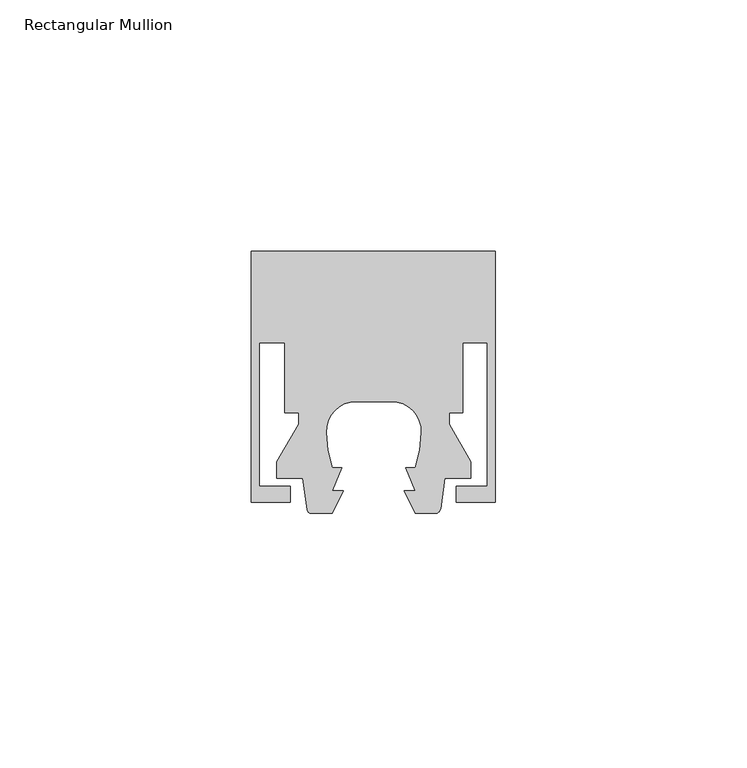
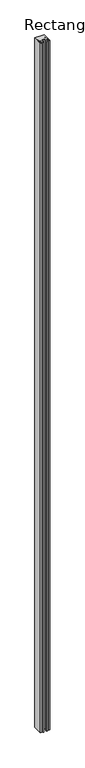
"""IFC4 building model written with IfcOpenShell, lengths in millimetres: member geometry, Rectangular Mullion : Danpal_Airpt."""

from ifc_helpers import new_model, si_unit, point, frame, frame_2d, origin, place, context, project, spatial, polyline, circle_curve, trimmed, segment, composite_curve, outline, extrude, source, transform, mapped, element, save


def rectangular_mullion_fb487b12(model_context):
    return source(origin(), model_context, "Body", "SweptSolid", [
        extrude(outline(composite_curve([segment(polyline([(-16.6, 16.4), (-24.4, 16.4), (-24.4, 66.4), (24.2, 66.4), (24.2, 16.4), (16.4, 16.4), (16.4, 19.6), (22.6, 19.6), (22.6, 48.2), (17.7185077, 48.2), (17.7185077, 34.2), (14.9766663, 34.2), (14.9766663, 31.9202845), (19.2732051, 24.478461), (19.3, 21.2), (14.115585, 21.2)]), True, "CONTINUOUS"), segment(trimmed(circle_curve(frame_2d((-137.1078499, 38.5534788)), 152.215868), [point((14.115585, 21.2))], [point((13.2922905, 15.1127399))], False, "CARTESIAN"), True, "CONTINUOUS"), segment(trimmed(circle_curve(frame_2d((12.2262756, 15.2788845)), 1.0788845), [point((13.2922905, 15.1127399))], [point((12.2262756, 14.2))], False, "CARTESIAN"), True, "CONTINUOUS"), segment(polyline([(12.2262756, 14.2), (8.2308667, 14.2), (6.0782659, 18.7006239), (8.2858815, 18.7006239), (6.3614697, 23.2699289), (8.2778534, 23.2699289)]), True, "CONTINUOUS"), segment(trimmed(circle_curve(frame_2d((-16.4332098, 31.142799)), 25.9348941), [point((8.2778534, 23.2699289))], [point((9.488241, 30.3078647))], True, "CARTESIAN"), True, "CONTINUOUS"), segment(trimmed(circle_curve(frame_2d((3.5093751, 30.500445)), 5.9819667), [point((9.488241, 30.3078647))], [point((3.5093751, 36.4824117))], True, "CARTESIAN"), True, "CONTINUOUS"), segment(polyline([(3.5093751, 36.4824117), (-3.5093751, 36.4824117)]), True, "CONTINUOUS"), segment(trimmed(circle_curve(frame_2d((-3.5093751, 30.500445)), 5.9819667), [point((-3.5093751, 36.4824117))], [point((-9.488241, 30.3078647))], True, "CARTESIAN"), True, "CONTINUOUS"), segment(trimmed(circle_curve(frame_2d((16.4332098, 31.142799)), 25.9348941), [point((-9.488241, 30.3078647))], [point((-8.2778534, 23.2699289))], True, "CARTESIAN"), True, "CONTINUOUS"), segment(polyline([(-8.2778534, 23.2699289), (-6.3614697, 23.2699289), (-8.2858815, 18.7006239), (-6.0782659, 18.7006239), (-8.2308667, 14.2), (-12.3738214, 14.2)]), True, "CONTINUOUS"), segment(trimmed(circle_curve(frame_2d((-12.3738214, 15.1064765)), 0.9064765), [point((-12.3738214, 14.2))], [point((-13.2693482, 14.9660083))], False, "CARTESIAN"), True, "CONTINUOUS"), segment(trimmed(circle_curve(frame_2d((137.1078499, 38.5534788)), 152.215868), [point((-13.2693482, 14.9660083))], [point((-14.115585, 21.2))], False, "CARTESIAN"), True, "CONTINUOUS"), segment(polyline([(-14.115585, 21.2), (-19.3, 21.2), (-19.2732051, 24.478461), (-14.9766663, 31.9202845), (-14.9766663, 34.2), (-17.7185077, 34.2), (-17.7185077, 48.2), (-22.8, 48.2), (-22.8, 19.6), (-16.6, 19.6), (-16.6, 16.4)]), True, "CONTINUOUS")], self_intersect=False)), frame((0.0, 0.0, -3817.3608197), z_axis=(0.0, 0.0, 1.0), x_axis=(1.0, 0.0, 0.0)), (0.0, 0.0, 1.0), 3817.3608197),
    ])


if __name__ == "__main__":
    model = new_model("IFC4")
    model_context = context("Model", 3, world=origin())
    ifc_project = project(units=[si_unit("LENGTHUNIT", "METRE", prefix="MILLI")], contexts=[model_context])
    site = spatial("IfcSite", under=ifc_project)
    building = spatial("IfcBuilding", under=site)
    placement = place(None, origin())
    rectangular_mullion_shape = rectangular_mullion_fb487b12(model_context)
    element("IfcMember", 1, ObjectType="Rectangular Mullion : Danpal_Airpt", at=placement, inside=building, context=model_context, shape_type="MappedRepresentation", body=[
        mapped(rectangular_mullion_shape, transform((0.0, 0.0, 0.0), x_axis=(1.0, 0.0, 0.0), y_axis=(0.0, 1.0, 0.0), z_axis=(0.0, 0.0, 1.0))),
    ])
    save(model, "model.ifc")
